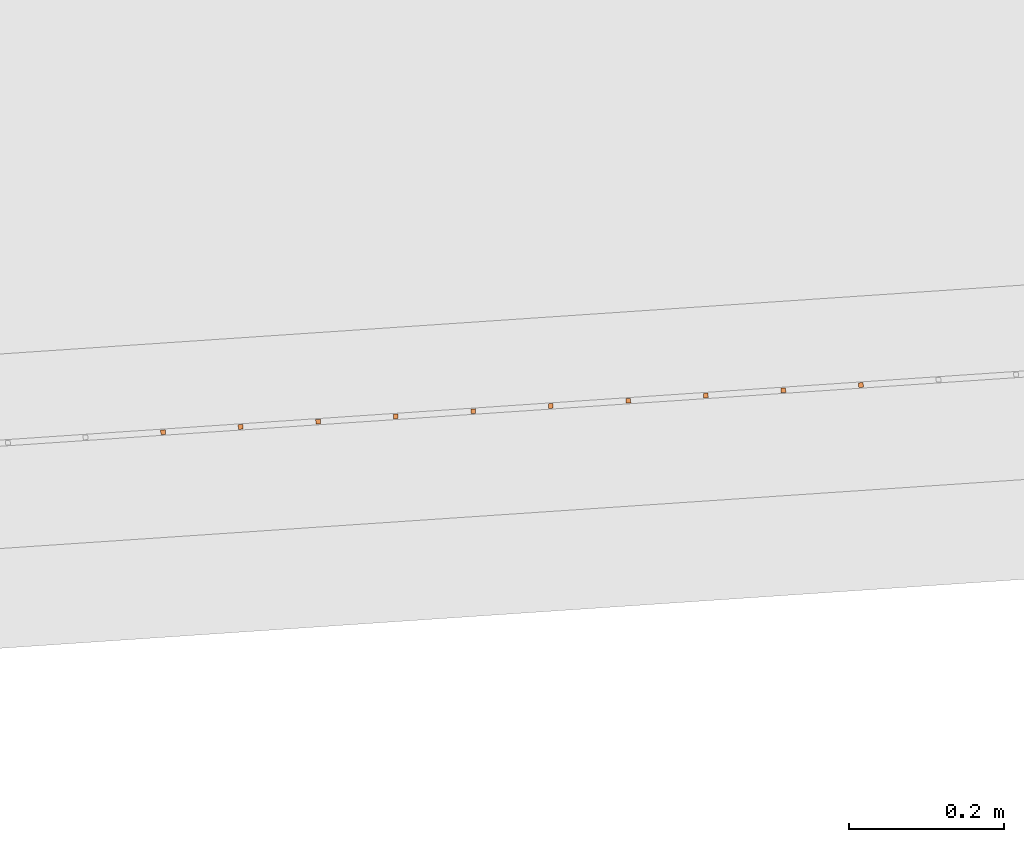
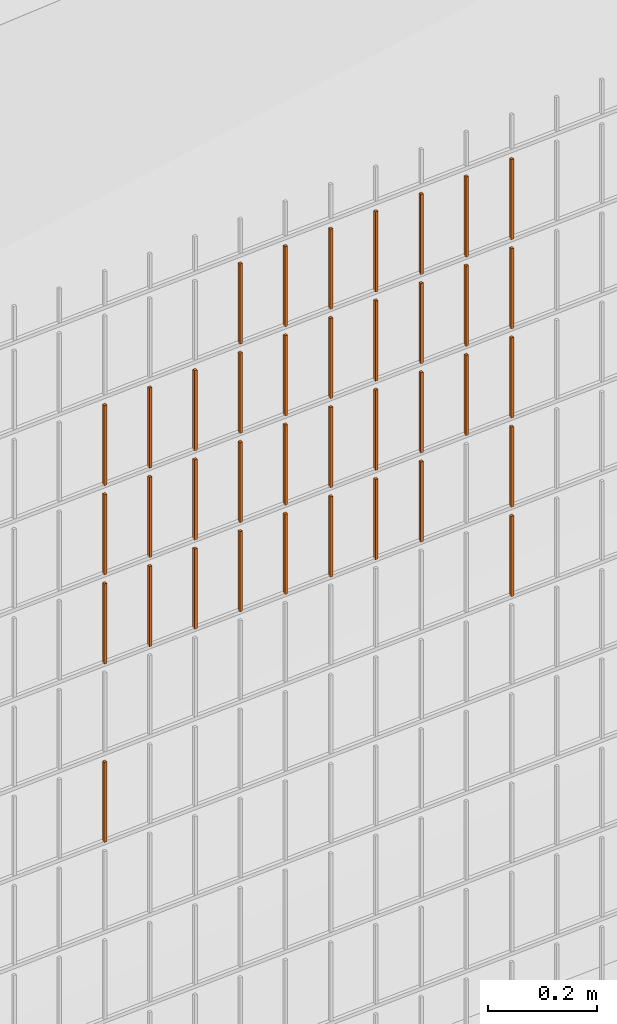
# One storey, part 136 of 1809: 38 proxies, 1 element without a shape of its own.
"""IFC2X3 building model written with IfcOpenShell, lengths in millimetres."""

from ifc_helpers import new_model, entity, si_unit, converted_unit, derived_unit, money_unit, direction, frame, origin_with_axes, place, context, subcontext, project, spatial, faceted_brep, source, transform, mapped, material, type_object, element, aggregate, save


model = new_model("IFC2X3")

# Units and contexts
model_context = context("Model", 3, precision=0.01, world=origin_with_axes(), true_north=direction((0.0, 1.0)))
body_context = subcontext(model_context, "Body", "Model", "MODEL_VIEW")
ifc_project = project(units=[si_unit("LENGTHUNIT", "METRE", prefix="MILLI"), si_unit("AREAUNIT", "SQUARE_METRE"), si_unit("VOLUMEUNIT", "CUBIC_METRE"), converted_unit("PLANEANGLEUNIT", "DEGREE", entity("IfcPlaneAngleMeasure", 0.0174532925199), si_unit("PLANEANGLEUNIT", "RADIAN"), dimensions=[0, 0, 0, 0, 0, 0, 0]), si_unit("SOLIDANGLEUNIT", "STERADIAN"), money_unit("EUR"), converted_unit("TIMEUNIT", "Year", entity("IfcTimeMeasure", 31556926.0), si_unit("TIMEUNIT", "SECOND"), dimensions=[0, 0, 1, 0, 0, 0, 0]), si_unit("MASSUNIT", "GRAM", prefix="KILO"), si_unit("THERMODYNAMICTEMPERATUREUNIT", "DEGREE_CELSIUS"), si_unit("LUMINOUSINTENSITYUNIT", "LUMEN"), si_unit("ENERGYUNIT", "JOULE", prefix="MEGA"), derived_unit("THERMALCONDUCTANCEUNIT", [(si_unit("POWERUNIT", "WATT"), 1), (si_unit("LENGTHUNIT", "METRE"), -1), (si_unit("THERMODYNAMICTEMPERATUREUNIT", "KELVIN"), -1)]), derived_unit("SPECIFICHEATCAPACITYUNIT", [(si_unit("ENERGYUNIT", "JOULE"), 1), (si_unit("MASSUNIT", "GRAM", prefix="KILO"), -1), (si_unit("THERMODYNAMICTEMPERATUREUNIT", "KELVIN"), -1)]), derived_unit("MASSDENSITYUNIT", [(si_unit("MASSUNIT", "GRAM", prefix="KILO"), 1), (si_unit("VOLUMEUNIT", "CUBIC_METRE"), -1)])], contexts=[model_context])

# Site, building, storey
site_placement = place(None, origin_with_axes())
site = spatial("IfcSite", under=ifc_project, at=site_placement, Name="Politse- ja Piirivalveameti ning Päästeameti ühishoone", CompositionType="ELEMENT")
building_placement = place(site_placement, origin_with_axes())
building = spatial("IfcBuilding", under=site, at=building_placement, Name="Politse- ja Piirivalveameti ning Päästeameti ühishoone", CompositionType="ELEMENT")
storey_placement = place(building_placement, origin_with_axes())
storey = spatial("IfcBuildingStorey", under=building, at=storey_placement, Name="Esimene korrus", CompositionType="ELEMENT", Elevation=0.0)

# Proxies
building_element_proxy_type_1 = type_object("IfcBuildingElementProxyType", Name="Railing Type", PredefinedType="NOTDEFINED")
proxy_1_placement = place(storey_placement, frame((89252.001212, -29183.4766571, 203.661247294), z_axis=(0.0, 0.0, 1.0), x_axis=(1.0, 0.0, 0.0)))
proxy_1 = element("IfcBuildingElementProxy", 1, at=proxy_1_placement, inside=storey, type_object=building_element_proxy_type_1, Name="PIIRDEAED")
ifc_material = material(Name="ET-03_Raud")
building_element_proxy_type_2 = type_object("IfcBuildingElementProxyType", Name="IfcBuildingElementProxy", PredefinedType="NOTDEFINED")
shared_shape_1 = source(origin_with_axes(), body_context, "Body", "Brep", [
    faceted_brep([(3.0, 3.0, -0.000752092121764), (-3.0, 3.0, -0.000752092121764), (-3.0, 3.0, 179.99926046), (3.0, 3.0, 179.99926046), (3.0, -3.0, 0.000752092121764), (-3.0, -3.0, 0.000752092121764), (-3.0, -3.0, 180.000764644), (3.0, -3.0, 180.000764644)], [[[0, 1, 2, 3]], [[0, 4, 5, 1]], [[1, 5, 6, 2]], [[3, 2, 6, 7]], [[4, 0, 3, 7]], [[5, 4, 7, 6]]]),
])
proxy_2_placement = place(proxy_1_placement, frame((-89023.833792, -23310.9987704, 1204.86548915), z_axis=(0.0, 0.0, 1.0), x_axis=(1.0, 0.0, 0.0)))
proxy_2 = element("IfcBuildingElementProxy", 2, at=proxy_2_placement, type_object=building_element_proxy_type_2, material=ifc_material, Name="BALUSTER - 001", context=body_context, shape_type="MappedRepresentation", body=[
    mapped(shared_shape_1, transform((0.0, 0.0, 0.0), x_axis=(-0.0673926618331, 0.997726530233, 0.0), y_axis=(-0.997726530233, -0.0673926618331, 0.0), z_axis=(0.0, 0.0, 1.0))),
])
shared_shape_2 = source(origin_with_axes(), body_context, "Body", "Brep", [
    faceted_brep([(3.0, 3.0, -0.000752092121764), (-3.0, 3.0, -0.000752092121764), (-3.0, 3.0, 179.99926046), (3.0, 3.0, 179.99926046), (3.0, -3.0, 0.000752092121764), (-3.0, -3.0, 0.000752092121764), (-3.0, -3.0, 180.000764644), (3.0, -3.0, 180.000764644)], [[[0, 1, 2, 3]], [[0, 4, 5, 1]], [[1, 5, 6, 2]], [[3, 2, 6, 7]], [[4, 0, 3, 7]], [[5, 4, 7, 6]]]),
])
proxy_3_placement = place(proxy_1_placement, frame((-89023.833792, -23310.9987704, 1404.86548915), z_axis=(0.0, 0.0, 1.0), x_axis=(1.0, 0.0, 0.0)))
proxy_3 = element("IfcBuildingElementProxy", 3, at=proxy_3_placement, type_object=building_element_proxy_type_2, material=ifc_material, Name="BALUSTER - 001", context=body_context, shape_type="MappedRepresentation", body=[
    mapped(shared_shape_2, transform((0.0, 0.0, 0.0), x_axis=(-0.0673926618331, 0.997726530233, 0.0), y_axis=(-0.997726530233, -0.0673926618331, 0.0), z_axis=(0.0, 0.0, 1.0))),
])
proxy_4_placement = place(proxy_1_placement, frame((-89023.833792, -23310.9987704, 1604.86548915), z_axis=(0.0, 0.0, 1.0), x_axis=(1.0, 0.0, 0.0)))
proxy_4 = element("IfcBuildingElementProxy", 4, at=proxy_4_placement, type_object=building_element_proxy_type_2, material=ifc_material, Name="BALUSTER - 001", context=body_context, shape_type="MappedRepresentation", body=[
    mapped(shared_shape_2, transform((0.0, 0.0, 0.0), x_axis=(-0.0673926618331, 0.997726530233, 0.0), y_axis=(-0.997726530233, -0.0673926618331, 0.0), z_axis=(0.0, 0.0, 1.0))),
])
shared_shape_3 = source(origin_with_axes(), body_context, "Body", "Brep", [
    faceted_brep([(3.0, 3.0, -0.000752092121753), (-3.0, 3.0, -0.000752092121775), (-3.0, 3.0, 179.99926046), (3.0, 3.0, 179.99926046), (3.0, -3.0, 0.000752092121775), (-3.0, -3.0, 0.000752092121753), (-3.0, -3.0, 180.000764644), (3.0, -3.0, 180.000764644)], [[[0, 1, 2, 3]], [[0, 4, 5, 1]], [[1, 5, 6, 2]], [[3, 2, 6, 7]], [[4, 0, 3, 7]], [[5, 4, 7, 6]]]),
])
proxy_5_placement = place(proxy_1_placement, frame((-88225.6525678, -23257.084641, 1005.06604705), z_axis=(0.0, 0.0, 1.0), x_axis=(1.0, 0.0, 0.0)))
proxy_5 = element("IfcBuildingElementProxy", 5, at=proxy_5_placement, type_object=building_element_proxy_type_2, material=ifc_material, Name="BALUSTER - 001", context=body_context, shape_type="MappedRepresentation", body=[
    mapped(shared_shape_3, transform((0.0, 0.0, 0.0), x_axis=(-0.0673926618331, 0.997726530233, 0.0), y_axis=(-0.997726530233, -0.0673926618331, 0.0), z_axis=(0.0, 0.0, 1.0))),
])
shared_shape_4 = source(origin_with_axes(), body_context, "Body", "Brep", [
    faceted_brep([(3.0, 3.0, -0.000752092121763), (-3.0, 3.0, -0.000752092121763), (-3.0, 3.0, 179.99926046), (3.0, 3.0, 179.99926046), (3.0, -3.0, 0.000752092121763), (-3.0, -3.0, 0.000752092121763), (-3.0, -3.0, 180.000764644), (3.0, -3.0, 180.000764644)], [[[0, 1, 2, 3]], [[0, 4, 5, 1]], [[1, 5, 6, 2]], [[3, 2, 6, 7]], [[4, 0, 3, 7]], [[5, 4, 7, 6]]]),
])
proxy_6_placement = place(proxy_1_placement, frame((-88225.6525678, -23257.084641, 1405.06604705), z_axis=(0.0, 0.0, 1.0), x_axis=(1.0, 0.0, 0.0)))
proxy_6 = element("IfcBuildingElementProxy", 6, at=proxy_6_placement, type_object=building_element_proxy_type_2, material=ifc_material, Name="BALUSTER - 001", context=body_context, shape_type="MappedRepresentation", body=[
    mapped(shared_shape_4, transform((0.0, 0.0, 0.0), x_axis=(-0.0673926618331, 0.997726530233, 0.0), y_axis=(-0.997726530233, -0.0673926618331, 0.0), z_axis=(0.0, 0.0, 1.0))),
])
proxy_7_placement = place(proxy_1_placement, frame((-88225.6525678, -23257.084641, 1605.06604705), z_axis=(0.0, 0.0, 1.0), x_axis=(1.0, 0.0, 0.0)))
proxy_7 = element("IfcBuildingElementProxy", 7, at=proxy_7_placement, type_object=building_element_proxy_type_2, material=ifc_material, Name="BALUSTER - 001", context=body_context, shape_type="MappedRepresentation", body=[
    mapped(shared_shape_4, transform((0.0, 0.0, 0.0), x_axis=(-0.0673926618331, 0.997726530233, 0.0), y_axis=(-0.997726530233, -0.0673926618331, 0.0), z_axis=(0.0, 0.0, 1.0))),
])
shared_shape_5 = source(origin_with_axes(), body_context, "Body", "Brep", [
    faceted_brep([(3.0, 3.0, -0.000752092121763), (-3.0, 3.0, -0.000752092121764), (-3.0, 3.0, 179.99926046), (3.0, 3.0, 179.99926046), (3.0, -3.0, 0.000752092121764), (-3.0, -3.0, 0.000752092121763), (-3.0, -3.0, 180.000764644), (3.0, -3.0, 180.000764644)], [[[0, 1, 2, 3]], [[0, 4, 5, 1]], [[1, 5, 6, 2]], [[3, 2, 6, 7]], [[4, 0, 3, 7]], [[5, 4, 7, 6]]]),
])
proxy_8_placement = place(proxy_1_placement, frame((-88824.2884859, -23297.5202381, 1204.91562863), z_axis=(0.0, 0.0, 1.0), x_axis=(1.0, 0.0, 0.0)))
proxy_8 = element("IfcBuildingElementProxy", 8, at=proxy_8_placement, type_object=building_element_proxy_type_2, material=ifc_material, Name="BALUSTER - 001", context=body_context, shape_type="MappedRepresentation", body=[
    mapped(shared_shape_5, transform((0.0, 0.0, 0.0), x_axis=(-0.0673926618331, 0.997726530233, 0.0), y_axis=(-0.997726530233, -0.0673926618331, 0.0), z_axis=(0.0, 0.0, 1.0))),
])
proxy_9_placement = place(proxy_1_placement, frame((-88724.5158329, -23290.7809719, 1804.94069836), z_axis=(0.0, 0.0, 1.0), x_axis=(1.0, 0.0, 0.0)))
proxy_9 = element("IfcBuildingElementProxy", 9, at=proxy_9_placement, type_object=building_element_proxy_type_2, material=ifc_material, Name="BALUSTER - 001", context=body_context, shape_type="MappedRepresentation", body=[
    mapped(shared_shape_5, transform((0.0, 0.0, 0.0), x_axis=(-0.0673926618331, 0.997726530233, 0.0), y_axis=(-0.997726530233, -0.0673926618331, 0.0), z_axis=(0.0, 0.0, 1.0))),
])
shared_shape_6 = source(origin_with_axes(), body_context, "Body", "Brep", [
    faceted_brep([(3.0, 3.0, -0.000752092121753), (-3.0, 3.0, -0.000752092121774), (-3.0, 3.0, 179.99926046), (3.0, 3.0, 179.99926046), (3.0, -3.0, 0.000752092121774), (-3.0, -3.0, 0.000752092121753), (-3.0, -3.0, 180.000764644), (3.0, -3.0, 180.000764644)], [[[0, 1, 2, 3]], [[0, 4, 5, 1]], [[1, 5, 6, 2]], [[3, 2, 6, 7]], [[4, 0, 3, 7]], [[5, 4, 7, 6]]]),
])
proxy_10_placement = place(proxy_1_placement, frame((-88425.1978738, -23270.5631733, 1205.01590758), z_axis=(0.0, 0.0, 1.0), x_axis=(1.0, 0.0, 0.0)))
proxy_10 = element("IfcBuildingElementProxy", 10, at=proxy_10_placement, type_object=building_element_proxy_type_2, material=ifc_material, Name="BALUSTER - 001", context=body_context, shape_type="MappedRepresentation", body=[
    mapped(shared_shape_6, transform((0.0, 0.0, 0.0), x_axis=(-0.0673926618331, 0.997726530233, 0.0), y_axis=(-0.997726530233, -0.0673926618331, 0.0), z_axis=(0.0, 0.0, 1.0))),
])
shared_shape_7 = source(origin_with_axes(), body_context, "Body", "Brep", [
    faceted_brep([(3.0, 3.0, -0.000752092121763), (-3.0, 3.0, -0.000752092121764), (-3.0, 3.0, 179.99926046), (3.0, 3.0, 179.99926046), (3.0, -3.0, 0.000752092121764), (-3.0, -3.0, 0.000752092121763), (-3.0, -3.0, 180.000764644), (3.0, -3.0, 180.000764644)], [[[0, 1, 2, 3]], [[0, 4, 5, 1]], [[1, 5, 6, 2]], [[3, 2, 6, 7]], [[4, 0, 3, 7]], [[5, 4, 7, 6]]]),
])
proxy_11_placement = place(proxy_1_placement, frame((-88524.9705269, -23277.3024395, 1204.99083784), z_axis=(0.0, 0.0, 1.0), x_axis=(1.0, 0.0, 0.0)))
proxy_11 = element("IfcBuildingElementProxy", 11, at=proxy_11_placement, type_object=building_element_proxy_type_2, material=ifc_material, Name="BALUSTER - 001", context=body_context, shape_type="MappedRepresentation", body=[
    mapped(shared_shape_7, transform((0.0, 0.0, 0.0), x_axis=(-0.0673926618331, 0.997726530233, 0.0), y_axis=(-0.997726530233, -0.0673926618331, 0.0), z_axis=(0.0, 0.0, 1.0))),
])
shared_shape_8 = source(origin_with_axes(), body_context, "Body", "Brep", [
    faceted_brep([(3.0, 3.0, -0.000752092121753), (-3.0, 3.0, -0.000752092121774), (-3.0, 3.0, 179.99926046), (3.0, 3.0, 179.99926046), (3.0, -3.0, 0.000752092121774), (-3.0, -3.0, 0.000752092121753), (-3.0, -3.0, 180.000764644), (3.0, -3.0, 180.000764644)], [[[0, 1, 2, 3]], [[0, 4, 5, 1]], [[1, 5, 6, 2]], [[3, 2, 6, 7]], [[4, 0, 3, 7]], [[5, 4, 7, 6]]]),
])
proxy_12_placement = place(proxy_1_placement, frame((-89123.606445, -23317.7380366, 1204.84041942), z_axis=(0.0, 0.0, 1.0), x_axis=(1.0, 0.0, 0.0)))
proxy_12 = element("IfcBuildingElementProxy", 12, at=proxy_12_placement, type_object=building_element_proxy_type_2, material=ifc_material, Name="BALUSTER - 001", context=body_context, shape_type="MappedRepresentation", body=[
    mapped(shared_shape_8, transform((0.0, 0.0, 0.0), x_axis=(-0.0673926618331, 0.997726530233, 0.0), y_axis=(-0.997726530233, -0.0673926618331, 0.0), z_axis=(0.0, 0.0, 1.0))),
])
proxy_13_placement = place(proxy_1_placement, frame((-88425.1978738, -23270.5631733, 1805.01590758), z_axis=(0.0, 0.0, 1.0), x_axis=(1.0, 0.0, 0.0)))
proxy_13 = element("IfcBuildingElementProxy", 13, at=proxy_13_placement, type_object=building_element_proxy_type_2, material=ifc_material, Name="BALUSTER - 001", context=body_context, shape_type="MappedRepresentation", body=[
    mapped(shared_shape_8, transform((0.0, 0.0, 0.0), x_axis=(-0.0673926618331, 0.997726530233, 0.0), y_axis=(-0.997726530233, -0.0673926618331, 0.0), z_axis=(0.0, 0.0, 1.0))),
])
shared_shape_9 = source(origin_with_axes(), body_context, "Body", "Brep", [
    faceted_brep([(3.0, 3.0, -0.000752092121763), (-3.0, 3.0, -0.000752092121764), (-3.0, 3.0, 179.99926046), (3.0, 3.0, 179.99926046), (3.0, -3.0, 0.000752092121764), (-3.0, -3.0, 0.000752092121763), (-3.0, -3.0, 180.000764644), (3.0, -3.0, 180.000764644)], [[[0, 1, 2, 3]], [[0, 4, 5, 1]], [[1, 5, 6, 2]], [[3, 2, 6, 7]], [[4, 0, 3, 7]], [[5, 4, 7, 6]]]),
])
proxy_14_placement = place(proxy_1_placement, frame((-88724.5158329, -23290.7809719, 1204.94069836), z_axis=(0.0, 0.0, 1.0), x_axis=(1.0, 0.0, 0.0)))
proxy_14 = element("IfcBuildingElementProxy", 14, at=proxy_14_placement, type_object=building_element_proxy_type_2, material=ifc_material, Name="BALUSTER - 001", context=body_context, shape_type="MappedRepresentation", body=[
    mapped(shared_shape_9, transform((0.0, 0.0, 0.0), x_axis=(-0.0673926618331, 0.997726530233, 0.0), y_axis=(-0.997726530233, -0.0673926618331, 0.0), z_axis=(0.0, 0.0, 1.0))),
])
proxy_15_placement = place(proxy_1_placement, frame((-88624.7431799, -23284.0417057, 1804.9657681), z_axis=(0.0, 0.0, 1.0), x_axis=(1.0, 0.0, 0.0)))
proxy_15 = element("IfcBuildingElementProxy", 15, at=proxy_15_placement, type_object=building_element_proxy_type_2, material=ifc_material, Name="BALUSTER - 001", context=body_context, shape_type="MappedRepresentation", body=[
    mapped(shared_shape_9, transform((0.0, 0.0, 0.0), x_axis=(-0.0673926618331, 0.997726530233, 0.0), y_axis=(-0.997726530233, -0.0673926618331, 0.0), z_axis=(0.0, 0.0, 1.0))),
])
proxy_16_placement = place(proxy_1_placement, frame((-88824.2884859, -23297.5202381, 1804.91562863), z_axis=(0.0, 0.0, 1.0), x_axis=(1.0, 0.0, 0.0)))
proxy_16 = element("IfcBuildingElementProxy", 16, at=proxy_16_placement, type_object=building_element_proxy_type_2, material=ifc_material, Name="BALUSTER - 001", context=body_context, shape_type="MappedRepresentation", body=[
    mapped(shared_shape_9, transform((0.0, 0.0, 0.0), x_axis=(-0.0673926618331, 0.997726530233, 0.0), y_axis=(-0.997726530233, -0.0673926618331, 0.0), z_axis=(0.0, 0.0, 1.0))),
])
shared_shape_10 = source(origin_with_axes(), body_context, "Body", "Brep", [
    faceted_brep([(3.0, 3.0, -0.000752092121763), (-3.0, 3.0, -0.000752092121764), (-3.0, 3.0, 179.99926046), (3.0, 3.0, 179.99926046), (3.0, -3.0, 0.000752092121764), (-3.0, -3.0, 0.000752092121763), (-3.0, -3.0, 180.000764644), (3.0, -3.0, 180.000764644)], [[[0, 1, 2, 3]], [[0, 4, 5, 1]], [[1, 5, 6, 2]], [[3, 2, 6, 7]], [[4, 0, 3, 7]], [[5, 4, 7, 6]]]),
])
proxy_17_placement = place(proxy_1_placement, frame((-88524.9705269, -23277.3024395, 1804.99083784), z_axis=(0.0, 0.0, 1.0), x_axis=(1.0, 0.0, 0.0)))
proxy_17 = element("IfcBuildingElementProxy", 17, at=proxy_17_placement, type_object=building_element_proxy_type_2, material=ifc_material, Name="BALUSTER - 001", context=body_context, shape_type="MappedRepresentation", body=[
    mapped(shared_shape_10, transform((0.0, 0.0, 0.0), x_axis=(-0.0673926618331, 0.997726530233, 0.0), y_axis=(-0.997726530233, -0.0673926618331, 0.0), z_axis=(0.0, 0.0, 1.0))),
])
shared_shape_11 = source(origin_with_axes(), body_context, "Body", "Brep", [
    faceted_brep([(3.0, 3.0, -0.000752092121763), (-3.0, 3.0, -0.000752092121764), (-3.0, 3.0, 179.99926046), (3.0, 3.0, 179.99926046), (3.0, -3.0, 0.000752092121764), (-3.0, -3.0, 0.000752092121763), (-3.0, -3.0, 180.000764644), (3.0, -3.0, 180.000764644)], [[[0, 1, 2, 3]], [[0, 4, 5, 1]], [[1, 5, 6, 2]], [[3, 2, 6, 7]], [[4, 0, 3, 7]], [[5, 4, 7, 6]]]),
])
proxy_18_placement = place(proxy_1_placement, frame((-88724.5158329, -23290.7809719, 1404.94069836), z_axis=(0.0, 0.0, 1.0), x_axis=(1.0, 0.0, 0.0)))
proxy_18 = element("IfcBuildingElementProxy", 18, at=proxy_18_placement, type_object=building_element_proxy_type_2, material=ifc_material, Name="BALUSTER - 001", context=body_context, shape_type="MappedRepresentation", body=[
    mapped(shared_shape_11, transform((0.0, 0.0, 0.0), x_axis=(-0.0673926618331, 0.997726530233, 0.0), y_axis=(-0.997726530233, -0.0673926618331, 0.0), z_axis=(0.0, 0.0, 1.0))),
])
proxy_19_placement = place(proxy_1_placement, frame((-88724.5158329, -23290.7809719, 1604.94069836), z_axis=(0.0, 0.0, 1.0), x_axis=(1.0, 0.0, 0.0)))
proxy_19 = element("IfcBuildingElementProxy", 19, at=proxy_19_placement, type_object=building_element_proxy_type_2, material=ifc_material, Name="BALUSTER - 001", context=body_context, shape_type="MappedRepresentation", body=[
    mapped(shared_shape_11, transform((0.0, 0.0, 0.0), x_axis=(-0.0673926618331, 0.997726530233, 0.0), y_axis=(-0.997726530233, -0.0673926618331, 0.0), z_axis=(0.0, 0.0, 1.0))),
])
shared_shape_12 = source(origin_with_axes(), body_context, "Body", "Brep", [
    faceted_brep([(3.0, 3.0, -0.000752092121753), (-3.0, 3.0, -0.000752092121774), (-3.0, 3.0, 179.99926046), (3.0, 3.0, 179.99926046), (3.0, -3.0, 0.000752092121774), (-3.0, -3.0, 0.000752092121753), (-3.0, -3.0, 180.000764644), (3.0, -3.0, 180.000764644)], [[[0, 1, 2, 3]], [[0, 4, 5, 1]], [[1, 5, 6, 2]], [[3, 2, 6, 7]], [[4, 0, 3, 7]], [[5, 4, 7, 6]]]),
])
proxy_20_placement = place(proxy_1_placement, frame((-89123.606445, -23317.7380366, 1404.84041942), z_axis=(0.0, 0.0, 1.0), x_axis=(1.0, 0.0, 0.0)))
proxy_20 = element("IfcBuildingElementProxy", 20, at=proxy_20_placement, type_object=building_element_proxy_type_2, material=ifc_material, Name="BALUSTER - 001", context=body_context, shape_type="MappedRepresentation", body=[
    mapped(shared_shape_12, transform((0.0, 0.0, 0.0), x_axis=(-0.0673926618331, 0.997726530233, 0.0), y_axis=(-0.997726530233, -0.0673926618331, 0.0), z_axis=(0.0, 0.0, 1.0))),
])
proxy_21_placement = place(proxy_1_placement, frame((-89123.606445, -23317.7380366, 1604.84041942), z_axis=(0.0, 0.0, 1.0), x_axis=(1.0, 0.0, 0.0)))
proxy_21 = element("IfcBuildingElementProxy", 21, at=proxy_21_placement, type_object=building_element_proxy_type_2, material=ifc_material, Name="BALUSTER - 001", context=body_context, shape_type="MappedRepresentation", body=[
    mapped(shared_shape_12, transform((0.0, 0.0, 0.0), x_axis=(-0.0673926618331, 0.997726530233, 0.0), y_axis=(-0.997726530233, -0.0673926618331, 0.0), z_axis=(0.0, 0.0, 1.0))),
])
shared_shape_13 = source(origin_with_axes(), body_context, "Body", "Brep", [
    faceted_brep([(3.0, 3.0, -0.000752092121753), (-3.0, 3.0, -0.000752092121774), (-3.0, 3.0, 179.99926046), (3.0, 3.0, 179.99926046), (3.0, -3.0, 0.000752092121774), (-3.0, -3.0, 0.000752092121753), (-3.0, -3.0, 180.000764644), (3.0, -3.0, 180.000764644)], [[[0, 1, 2, 3]], [[0, 4, 5, 1]], [[1, 5, 6, 2]], [[3, 2, 6, 7]], [[4, 0, 3, 7]], [[5, 4, 7, 6]]]),
])
proxy_22_placement = place(proxy_1_placement, frame((-88425.1978738, -23270.5631733, 1405.01590758), z_axis=(0.0, 0.0, 1.0), x_axis=(1.0, 0.0, 0.0)))
proxy_22 = element("IfcBuildingElementProxy", 22, at=proxy_22_placement, type_object=building_element_proxy_type_2, material=ifc_material, Name="BALUSTER - 001", context=body_context, shape_type="MappedRepresentation", body=[
    mapped(shared_shape_13, transform((0.0, 0.0, 0.0), x_axis=(-0.0673926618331, 0.997726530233, 0.0), y_axis=(-0.997726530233, -0.0673926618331, 0.0), z_axis=(0.0, 0.0, 1.0))),
])
proxy_23_placement = place(proxy_1_placement, frame((-88425.1978738, -23270.5631733, 1605.01590758), z_axis=(0.0, 0.0, 1.0), x_axis=(1.0, 0.0, 0.0)))
proxy_23 = element("IfcBuildingElementProxy", 23, at=proxy_23_placement, type_object=building_element_proxy_type_2, material=ifc_material, Name="BALUSTER - 001", context=body_context, shape_type="MappedRepresentation", body=[
    mapped(shared_shape_13, transform((0.0, 0.0, 0.0), x_axis=(-0.0673926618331, 0.997726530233, 0.0), y_axis=(-0.997726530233, -0.0673926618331, 0.0), z_axis=(0.0, 0.0, 1.0))),
])
shared_shape_14 = source(origin_with_axes(), body_context, "Body", "Brep", [
    faceted_brep([(3.0, 3.0, -0.000752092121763), (-3.0, 3.0, -0.000752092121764), (-3.0, 3.0, 179.99926046), (3.0, 3.0, 179.99926046), (3.0, -3.0, 0.000752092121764), (-3.0, -3.0, 0.000752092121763), (-3.0, -3.0, 180.000764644), (3.0, -3.0, 180.000764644)], [[[0, 1, 2, 3]], [[0, 4, 5, 1]], [[1, 5, 6, 2]], [[3, 2, 6, 7]], [[4, 0, 3, 7]], [[5, 4, 7, 6]]]),
])
proxy_24_placement = place(proxy_1_placement, frame((-88524.9705269, -23277.3024395, 1404.99083784), z_axis=(0.0, 0.0, 1.0), x_axis=(1.0, 0.0, 0.0)))
proxy_24 = element("IfcBuildingElementProxy", 24, at=proxy_24_placement, type_object=building_element_proxy_type_2, material=ifc_material, Name="BALUSTER - 001", context=body_context, shape_type="MappedRepresentation", body=[
    mapped(shared_shape_14, transform((0.0, 0.0, 0.0), x_axis=(-0.0673926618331, 0.997726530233, 0.0), y_axis=(-0.997726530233, -0.0673926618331, 0.0), z_axis=(0.0, 0.0, 1.0))),
])
proxy_25_placement = place(proxy_1_placement, frame((-88524.9705269, -23277.3024395, 1604.99083784), z_axis=(0.0, 0.0, 1.0), x_axis=(1.0, 0.0, 0.0)))
proxy_25 = element("IfcBuildingElementProxy", 25, at=proxy_25_placement, type_object=building_element_proxy_type_2, material=ifc_material, Name="BALUSTER - 001", context=body_context, shape_type="MappedRepresentation", body=[
    mapped(shared_shape_14, transform((0.0, 0.0, 0.0), x_axis=(-0.0673926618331, 0.997726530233, 0.0), y_axis=(-0.997726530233, -0.0673926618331, 0.0), z_axis=(0.0, 0.0, 1.0))),
])
shared_shape_15 = source(origin_with_axes(), body_context, "Body", "Brep", [
    faceted_brep([(3.0, 3.0, -0.000752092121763), (-3.0, 3.0, -0.000752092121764), (-3.0, 3.0, 179.99926046), (3.0, 3.0, 179.99926046), (3.0, -3.0, 0.000752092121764), (-3.0, -3.0, 0.000752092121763), (-3.0, -3.0, 180.000764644), (3.0, -3.0, 180.000764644)], [[[0, 1, 2, 3]], [[0, 4, 5, 1]], [[1, 5, 6, 2]], [[3, 2, 6, 7]], [[4, 0, 3, 7]], [[5, 4, 7, 6]]]),
])
proxy_26_placement = place(proxy_1_placement, frame((-88624.7431799, -23284.0417057, 1404.9657681), z_axis=(0.0, 0.0, 1.0), x_axis=(1.0, 0.0, 0.0)))
proxy_26 = element("IfcBuildingElementProxy", 26, at=proxy_26_placement, type_object=building_element_proxy_type_2, material=ifc_material, Name="BALUSTER - 001", context=body_context, shape_type="MappedRepresentation", body=[
    mapped(shared_shape_15, transform((0.0, 0.0, 0.0), x_axis=(-0.0673926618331, 0.997726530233, 0.0), y_axis=(-0.997726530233, -0.0673926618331, 0.0), z_axis=(0.0, 0.0, 1.0))),
])
proxy_27_placement = place(proxy_1_placement, frame((-88624.7431799, -23284.0417057, 1604.9657681), z_axis=(0.0, 0.0, 1.0), x_axis=(1.0, 0.0, 0.0)))
proxy_27 = element("IfcBuildingElementProxy", 27, at=proxy_27_placement, type_object=building_element_proxy_type_2, material=ifc_material, Name="BALUSTER - 001", context=body_context, shape_type="MappedRepresentation", body=[
    mapped(shared_shape_15, transform((0.0, 0.0, 0.0), x_axis=(-0.0673926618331, 0.997726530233, 0.0), y_axis=(-0.997726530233, -0.0673926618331, 0.0), z_axis=(0.0, 0.0, 1.0))),
])
shared_shape_16 = source(origin_with_axes(), body_context, "Body", "Brep", [
    faceted_brep([(3.0, 3.0, -0.000752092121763), (-3.0, 3.0, -0.000752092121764), (-3.0, 3.0, 179.99926046), (3.0, 3.0, 179.99926046), (3.0, -3.0, 0.000752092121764), (-3.0, -3.0, 0.000752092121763), (-3.0, -3.0, 180.000764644), (3.0, -3.0, 180.000764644)], [[[0, 1, 2, 3]], [[0, 4, 5, 1]], [[1, 5, 6, 2]], [[3, 2, 6, 7]], [[4, 0, 3, 7]], [[5, 4, 7, 6]]]),
])
proxy_28_placement = place(proxy_1_placement, frame((-88624.7431799, -23284.0417057, 1204.9657681), z_axis=(0.0, 0.0, 1.0), x_axis=(1.0, 0.0, 0.0)))
proxy_28 = element("IfcBuildingElementProxy", 28, at=proxy_28_placement, type_object=building_element_proxy_type_2, material=ifc_material, Name="BALUSTER - 001", context=body_context, shape_type="MappedRepresentation", body=[
    mapped(shared_shape_16, transform((0.0, 0.0, 0.0), x_axis=(-0.0673926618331, 0.997726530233, 0.0), y_axis=(-0.997726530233, -0.0673926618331, 0.0), z_axis=(0.0, 0.0, 1.0))),
])
shared_shape_17 = source(origin_with_axes(), body_context, "Body", "Brep", [
    faceted_brep([(3.0, 3.0, -0.000752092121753), (-3.0, 3.0, -0.000752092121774), (-3.0, 3.0, 179.99926046), (3.0, 3.0, 179.99926046), (3.0, -3.0, 0.000752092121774), (-3.0, -3.0, 0.000752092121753), (-3.0, -3.0, 180.000764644), (3.0, -3.0, 180.000764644)], [[[0, 1, 2, 3]], [[0, 4, 5, 1]], [[1, 5, 6, 2]], [[3, 2, 6, 7]], [[4, 0, 3, 7]], [[5, 4, 7, 6]]]),
])
proxy_29_placement = place(proxy_1_placement, frame((-88924.061139, -23304.2595042, 1204.89055889), z_axis=(0.0, 0.0, 1.0), x_axis=(1.0, 0.0, 0.0)))
proxy_29 = element("IfcBuildingElementProxy", 29, at=proxy_29_placement, type_object=building_element_proxy_type_2, material=ifc_material, Name="BALUSTER - 001", context=body_context, shape_type="MappedRepresentation", body=[
    mapped(shared_shape_17, transform((0.0, 0.0, 0.0), x_axis=(-0.0673926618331, 0.997726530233, 0.0), y_axis=(-0.997726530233, -0.0673926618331, 0.0), z_axis=(0.0, 0.0, 1.0))),
])
shared_shape_18 = source(origin_with_axes(), body_context, "Body", "Brep", [
    faceted_brep([(3.0, 3.0, -0.000752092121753), (-3.0, 3.0, -0.000752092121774), (-3.0, 3.0, 179.99926046), (3.0, 3.0, 179.99926046), (3.0, -3.0, 0.000752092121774), (-3.0, -3.0, 0.000752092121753), (-3.0, -3.0, 180.000764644), (3.0, -3.0, 180.000764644)], [[[0, 1, 2, 3]], [[0, 4, 5, 1]], [[1, 5, 6, 2]], [[3, 2, 6, 7]], [[4, 0, 3, 7]], [[5, 4, 7, 6]]]),
])
proxy_30_placement = place(proxy_1_placement, frame((-89123.606445, -23317.7380366, 804.840419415), z_axis=(0.0, 0.0, 1.0), x_axis=(1.0, 0.0, 0.0)))
proxy_30 = element("IfcBuildingElementProxy", 30, at=proxy_30_placement, type_object=building_element_proxy_type_2, material=ifc_material, Name="BALUSTER - 001", context=body_context, shape_type="MappedRepresentation", body=[
    mapped(shared_shape_18, transform((0.0, 0.0, 0.0), x_axis=(-0.0673926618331, 0.997726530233, 0.0), y_axis=(-0.997726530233, -0.0673926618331, 0.0), z_axis=(0.0, 0.0, 1.0))),
])
proxy_31_placement = place(proxy_1_placement, frame((-88325.4252208, -23263.8239071, 1805.04097731), z_axis=(0.0, 0.0, 1.0), x_axis=(1.0, 0.0, 0.0)))
proxy_31 = element("IfcBuildingElementProxy", 31, at=proxy_31_placement, type_object=building_element_proxy_type_2, material=ifc_material, Name="BALUSTER - 001", context=body_context, shape_type="MappedRepresentation", body=[
    mapped(shared_shape_18, transform((0.0, 0.0, 0.0), x_axis=(-0.0673926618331, 0.997726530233, 0.0), y_axis=(-0.997726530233, -0.0673926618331, 0.0), z_axis=(0.0, 0.0, 1.0))),
])
shared_shape_19 = source(origin_with_axes(), body_context, "Body", "Brep", [
    faceted_brep([(3.0, 3.0, -0.000752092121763), (-3.0, 3.0, -0.000752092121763), (-3.0, 3.0, 179.99926046), (3.0, 3.0, 179.99926046), (3.0, -3.0, 0.000752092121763), (-3.0, -3.0, 0.000752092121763), (-3.0, -3.0, 180.000764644), (3.0, -3.0, 180.000764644)], [[[0, 1, 2, 3]], [[0, 4, 5, 1]], [[1, 5, 6, 2]], [[3, 2, 6, 7]], [[4, 0, 3, 7]], [[5, 4, 7, 6]]]),
])
proxy_32_placement = place(proxy_1_placement, frame((-88225.6525678, -23257.084641, 1205.06604705), z_axis=(0.0, 0.0, 1.0), x_axis=(1.0, 0.0, 0.0)))
proxy_32 = element("IfcBuildingElementProxy", 32, at=proxy_32_placement, type_object=building_element_proxy_type_2, material=ifc_material, Name="BALUSTER - 001", context=body_context, shape_type="MappedRepresentation", body=[
    mapped(shared_shape_19, transform((0.0, 0.0, 0.0), x_axis=(-0.0673926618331, 0.997726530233, 0.0), y_axis=(-0.997726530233, -0.0673926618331, 0.0), z_axis=(0.0, 0.0, 1.0))),
])
shared_shape_20 = source(origin_with_axes(), body_context, "Body", "Brep", [
    faceted_brep([(3.0, 3.0, -0.000752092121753), (-3.0, 3.0, -0.000752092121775), (-3.0, 3.0, 179.99926046), (3.0, 3.0, 179.99926046), (3.0, -3.0, 0.000752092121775), (-3.0, -3.0, 0.000752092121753), (-3.0, -3.0, 180.000764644), (3.0, -3.0, 180.000764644)], [[[0, 1, 2, 3]], [[0, 4, 5, 1]], [[1, 5, 6, 2]], [[3, 2, 6, 7]], [[4, 0, 3, 7]], [[5, 4, 7, 6]]]),
])
proxy_33_placement = place(proxy_1_placement, frame((-88325.4252208, -23263.8239071, 1405.04097731), z_axis=(0.0, 0.0, 1.0), x_axis=(1.0, 0.0, 0.0)))
proxy_33 = element("IfcBuildingElementProxy", 33, at=proxy_33_placement, type_object=building_element_proxy_type_2, material=ifc_material, Name="BALUSTER - 001", context=body_context, shape_type="MappedRepresentation", body=[
    mapped(shared_shape_20, transform((0.0, 0.0, 0.0), x_axis=(-0.0673926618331, 0.997726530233, 0.0), y_axis=(-0.997726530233, -0.0673926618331, 0.0), z_axis=(0.0, 0.0, 1.0))),
])
proxy_34_placement = place(proxy_1_placement, frame((-88325.4252208, -23263.8239071, 1605.04097731), z_axis=(0.0, 0.0, 1.0), x_axis=(1.0, 0.0, 0.0)))
proxy_34 = element("IfcBuildingElementProxy", 34, at=proxy_34_placement, type_object=building_element_proxy_type_2, material=ifc_material, Name="BALUSTER - 001", context=body_context, shape_type="MappedRepresentation", body=[
    mapped(shared_shape_20, transform((0.0, 0.0, 0.0), x_axis=(-0.0673926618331, 0.997726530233, 0.0), y_axis=(-0.997726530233, -0.0673926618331, 0.0), z_axis=(0.0, 0.0, 1.0))),
])
shared_shape_21 = source(origin_with_axes(), body_context, "Body", "Brep", [
    faceted_brep([(3.0, 3.0, -0.000752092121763), (-3.0, 3.0, -0.000752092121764), (-3.0, 3.0, 179.99926046), (3.0, 3.0, 179.99926046), (3.0, -3.0, 0.000752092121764), (-3.0, -3.0, 0.000752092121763), (-3.0, -3.0, 180.000764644), (3.0, -3.0, 180.000764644)], [[[0, 1, 2, 3]], [[0, 4, 5, 1]], [[1, 5, 6, 2]], [[3, 2, 6, 7]], [[4, 0, 3, 7]], [[5, 4, 7, 6]]]),
])
proxy_35_placement = place(proxy_1_placement, frame((-88824.2884859, -23297.5202381, 1404.91562863), z_axis=(0.0, 0.0, 1.0), x_axis=(1.0, 0.0, 0.0)))
proxy_35 = element("IfcBuildingElementProxy", 35, at=proxy_35_placement, type_object=building_element_proxy_type_2, material=ifc_material, Name="BALUSTER - 001", context=body_context, shape_type="MappedRepresentation", body=[
    mapped(shared_shape_21, transform((0.0, 0.0, 0.0), x_axis=(-0.0673926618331, 0.997726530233, 0.0), y_axis=(-0.997726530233, -0.0673926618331, 0.0), z_axis=(0.0, 0.0, 1.0))),
])
proxy_36_placement = place(proxy_1_placement, frame((-88824.2884859, -23297.5202381, 1604.91562863), z_axis=(0.0, 0.0, 1.0), x_axis=(1.0, 0.0, 0.0)))
proxy_36 = element("IfcBuildingElementProxy", 36, at=proxy_36_placement, type_object=building_element_proxy_type_2, material=ifc_material, Name="BALUSTER - 001", context=body_context, shape_type="MappedRepresentation", body=[
    mapped(shared_shape_21, transform((0.0, 0.0, 0.0), x_axis=(-0.0673926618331, 0.997726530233, 0.0), y_axis=(-0.997726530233, -0.0673926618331, 0.0), z_axis=(0.0, 0.0, 1.0))),
])
shared_shape_22 = source(origin_with_axes(), body_context, "Body", "Brep", [
    faceted_brep([(3.0, 3.0, -0.000752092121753), (-3.0, 3.0, -0.000752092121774), (-3.0, 3.0, 179.99926046), (3.0, 3.0, 179.99926046), (3.0, -3.0, 0.000752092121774), (-3.0, -3.0, 0.000752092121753), (-3.0, -3.0, 180.000764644), (3.0, -3.0, 180.000764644)], [[[0, 1, 2, 3]], [[0, 4, 5, 1]], [[1, 5, 6, 2]], [[3, 2, 6, 7]], [[4, 0, 3, 7]], [[5, 4, 7, 6]]]),
])
proxy_37_placement = place(proxy_1_placement, frame((-88924.061139, -23304.2595042, 1404.89055889), z_axis=(0.0, 0.0, 1.0), x_axis=(1.0, 0.0, 0.0)))
proxy_37 = element("IfcBuildingElementProxy", 37, at=proxy_37_placement, type_object=building_element_proxy_type_2, material=ifc_material, Name="BALUSTER - 001", context=body_context, shape_type="MappedRepresentation", body=[
    mapped(shared_shape_22, transform((0.0, 0.0, 0.0), x_axis=(-0.0673926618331, 0.997726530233, 0.0), y_axis=(-0.997726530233, -0.0673926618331, 0.0), z_axis=(0.0, 0.0, 1.0))),
])
proxy_38_placement = place(proxy_1_placement, frame((-88924.061139, -23304.2595042, 1604.89055889), z_axis=(0.0, 0.0, 1.0), x_axis=(1.0, 0.0, 0.0)))
proxy_38 = element("IfcBuildingElementProxy", 38, at=proxy_38_placement, type_object=building_element_proxy_type_2, material=ifc_material, Name="BALUSTER - 001", context=body_context, shape_type="MappedRepresentation", body=[
    mapped(shared_shape_22, transform((0.0, 0.0, 0.0), x_axis=(-0.0673926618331, 0.997726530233, 0.0), y_axis=(-0.997726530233, -0.0673926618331, 0.0), z_axis=(0.0, 0.0, 1.0))),
])
shared_shape_23 = source(origin_with_axes(), body_context, "Body", "Brep", [
    faceted_brep([(3.0, 3.0, -0.000752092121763), (-3.0, 3.0, -0.000752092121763), (-3.0, 3.0, 179.99926046), (3.0, 3.0, 179.99926046), (3.0, -3.0, 0.000752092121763), (-3.0, -3.0, 0.000752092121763), (-3.0, -3.0, 180.000764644), (3.0, -3.0, 180.000764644)], [[[0, 1, 2, 3]], [[0, 4, 5, 1]], [[1, 5, 6, 2]], [[3, 2, 6, 7]], [[4, 0, 3, 7]], [[5, 4, 7, 6]]]),
])
proxy_39_placement = place(proxy_1_placement, frame((-88225.6525678, -23257.084641, 1805.06604705), z_axis=(0.0, 0.0, 1.0), x_axis=(1.0, 0.0, 0.0)))
proxy_39 = element("IfcBuildingElementProxy", 39, at=proxy_39_placement, type_object=building_element_proxy_type_2, material=ifc_material, Name="BALUSTER - 001", context=body_context, shape_type="MappedRepresentation", body=[
    mapped(shared_shape_23, transform((0.0, 0.0, 0.0), x_axis=(-0.0673926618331, 0.997726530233, 0.0), y_axis=(-0.997726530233, -0.0673926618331, 0.0), z_axis=(0.0, 0.0, 1.0))),
])
aggregate(proxy_1, [proxy_30, proxy_5, proxy_32, proxy_10, proxy_11, proxy_28, proxy_14, proxy_8, proxy_29, proxy_2, proxy_12, proxy_6, proxy_33, proxy_22, proxy_24, proxy_26, proxy_18, proxy_35, proxy_37, proxy_3, proxy_20, proxy_7, proxy_34, proxy_23, proxy_25, proxy_27, proxy_19, proxy_36, proxy_38, proxy_4, proxy_21, proxy_39, proxy_31, proxy_13, proxy_17, proxy_15, proxy_9, proxy_16])

save(model, "model.ifc")
